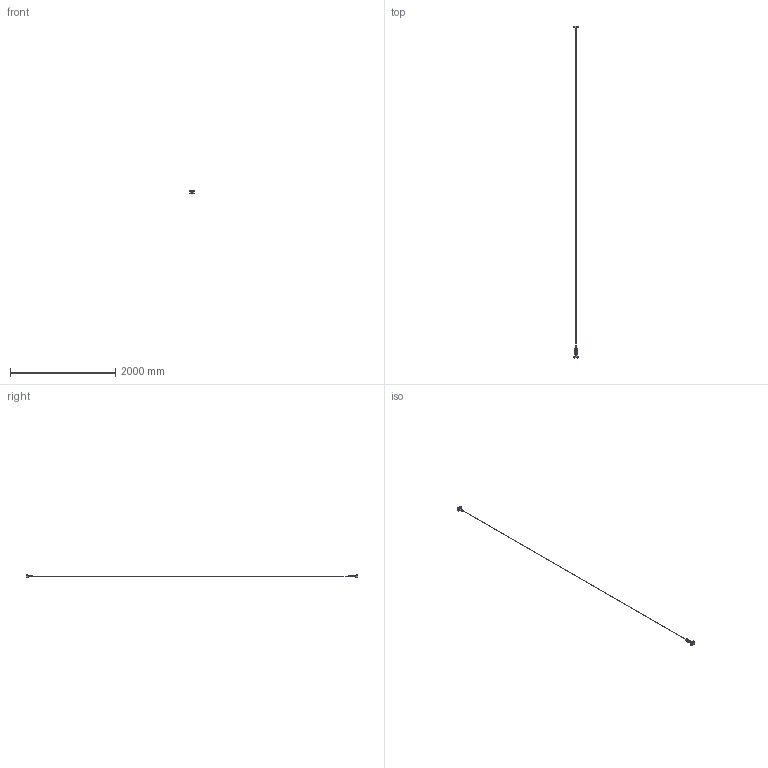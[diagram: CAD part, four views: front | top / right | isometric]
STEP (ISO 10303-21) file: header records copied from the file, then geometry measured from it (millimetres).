
FILE_DESCRIPTION(/* description */ (''),/* implementation_level */ '2;1');
FILE_NAME(/* name */ 'X:\PUBBLICA\X ALBERTO ZANARDI\FILE 3D X SITO\EU\FLASH\1900 - FLSH 6.stp',/* time_stamp */ '2020-02-26T12:30:30+01:00',/* author */ ('AC'),/* organization */ (''),/* preprocessor_version */ 'ST-DEVELOPER v18',/* originating_system */ 'Autodesk Inventor 2020',/* authorisation */ '');
FILE_SCHEMA (('AUTOMOTIVE_DESIGN { 1 0 10303 214 3 1 1 }'));
Length unit declared in the file: millimetre
Products named in the file (1): Parte8
Bounding box: 90 x 6313 x 53 mm (x, y, z)
Volume: 257925 mm3; surface area: 262050 mm2
Topology: 1 solids, 1 shells, 477 faces, 1261 edges, 762 vertices
Faces by surface type: plane 336, cylinder 139, cone 2
Full cylindrical faces by diameter (mm): 8 x10, 12 x2, 15 x1
Entity records: 15072 total; most frequent: CARTESIAN_POINT 2533, ORIENTED_EDGE 2506, DIRECTION 2499, EDGE_CURVE 1253, LINE 955, VECTOR 955, AXIS2_PLACEMENT_3D 772, VERTEX_POINT 750
